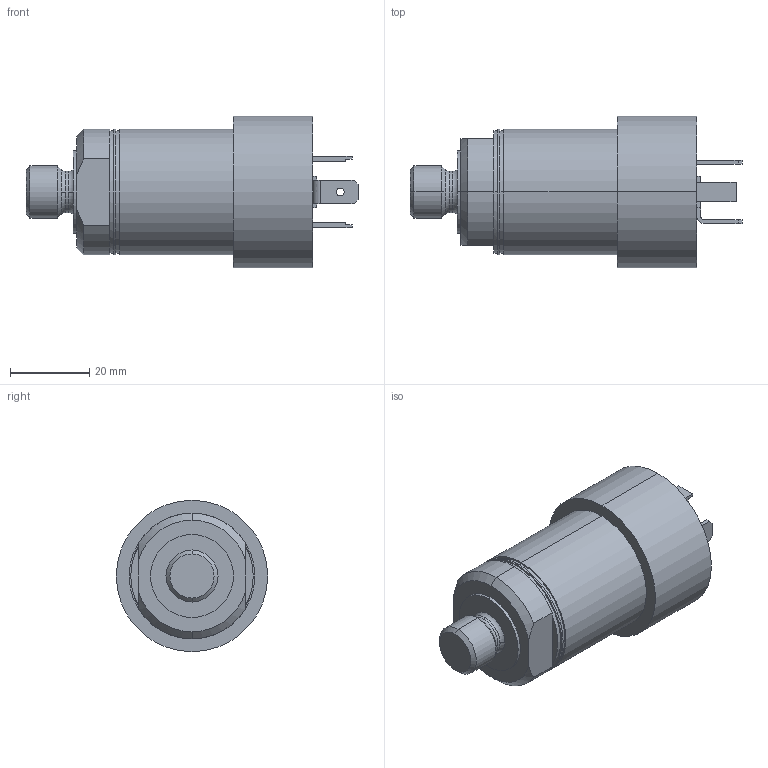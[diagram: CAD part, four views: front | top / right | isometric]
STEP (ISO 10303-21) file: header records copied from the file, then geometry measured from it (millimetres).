
FILE_DESCRIPTION(('STEP AP203'),'1');
FILE_NAME('C:/TPO v2/SharedFS/Outgoing/burster_8227-5500-v134_74iing4rxtthe669k1swfuhpl.stp','2013-08-27T18:21:33',('TraceParts'),('TraceParts S.A.'),'XStep 1.0',' ',' ');
FILE_SCHEMA(('CONFIG_CONTROL_DESIGN'));
Length unit declared in the file: millimetre
Products named in the file (1): 1
Bounding box: 84 x 38.3 x 38.3 mm (x, y, z)
Volume: 55993.1 mm3; surface area: 9868.5 mm2
Topology: 1 solids, 1 shells, 86 faces, 213 edges, 139 vertices
Faces by surface type: plane 48, cylinder 26, cone 8, torus 4
Entity records: 2610 total; most frequent: DIRECTION 460, CARTESIAN_POINT 447, ORIENTED_EDGE 426, EDGE_CURVE 213, AXIS2_PLACEMENT_3D 164, VERTEX_POINT 139, LINE 132, VECTOR 132
